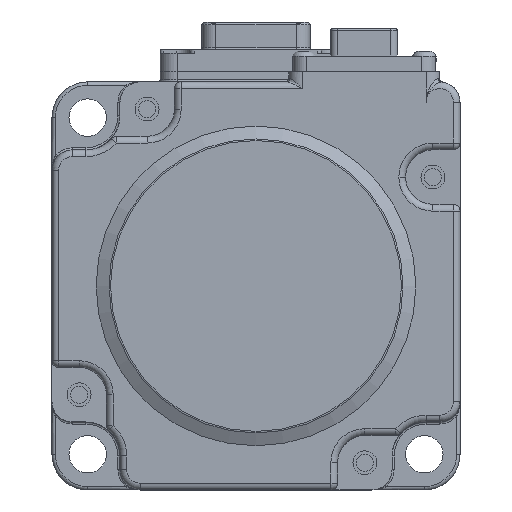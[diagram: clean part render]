
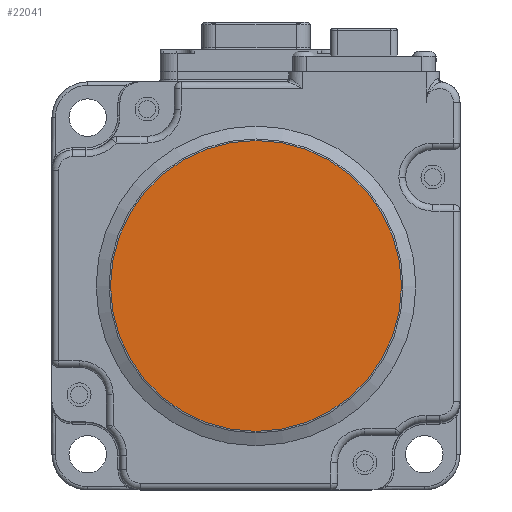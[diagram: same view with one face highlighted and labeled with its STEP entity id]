
A CAD part, left-side view. The second image highlights one B-rep face of the part: STEP entity #22041.
In plain terms, the highlighted planar face has unit normal (-1, 0, 0).
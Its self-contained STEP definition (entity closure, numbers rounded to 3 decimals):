
#3019 = DIRECTION ( 'NONE',  ( -1., 0., 0. ) ) ;
#4185 = VERTEX_POINT ( 'NONE', #19183 ) ;
#5223 = EDGE_CURVE ( 'NONE', #4185, #4185, #19337, .T. ) ;
#8104 = DIRECTION ( 'NONE',  ( -1., 0., 0. ) ) ;
#11420 = AXIS2_PLACEMENT_3D ( 'NONE', #13786, #3019, #12205 ) ;
#11499 = DIRECTION ( 'NONE',  ( 0., 0., -1. ) ) ;
#12205 = DIRECTION ( 'NONE',  ( 0., 0., -1. ) ) ;
#13786 = CARTESIAN_POINT ( 'NONE',  ( -25.844, 10.197, 60. ) ) ;
#16725 = PLANE ( 'NONE',  #18310 ) ;
#16881 = CARTESIAN_POINT ( 'NONE',  ( -25.844, 10.197, 60. ) ) ;
#18310 = AXIS2_PLACEMENT_3D ( 'NONE', #16881, #8104, #11499 ) ;
#19183 = CARTESIAN_POINT ( 'NONE',  ( -25.844, 10.197, 38.618 ) ) ;
#19337 = CIRCLE ( 'NONE', #11420, 21.382 ) ;
#19357 = ORIENTED_EDGE ( 'NONE', *, *, #5223, .T. ) ;
#20609 = EDGE_LOOP ( 'NONE', ( #19357 ) ) ;
#21631 = FACE_OUTER_BOUND ( 'NONE', #20609, .T. ) ;
#22041 = ADVANCED_FACE ( 'NONE', ( #21631 ), #16725, .T. ) ;
